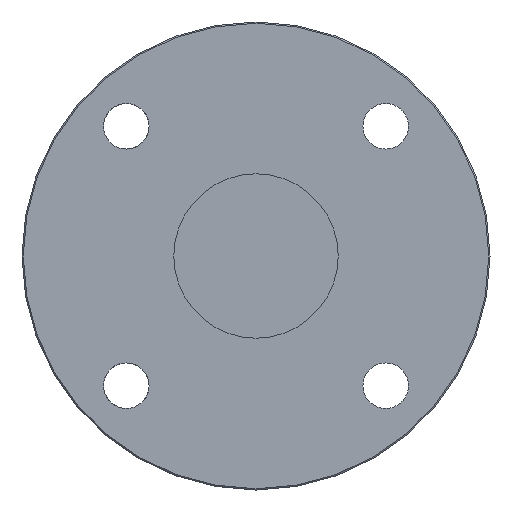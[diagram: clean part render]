
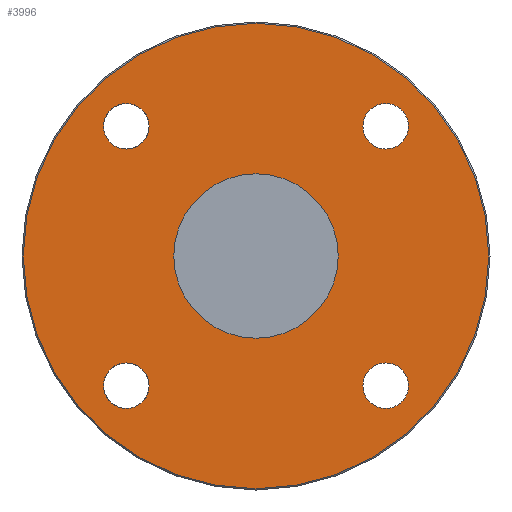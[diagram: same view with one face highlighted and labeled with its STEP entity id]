
A CAD part, left-side view. The second image highlights one B-rep face of the part: STEP entity #3996.
In plain terms, the highlighted planar face has unit normal (-1, 0, 0).
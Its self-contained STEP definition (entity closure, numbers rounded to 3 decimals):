
#69=FACE_BOUND('',#814,.T.);
#70=FACE_BOUND('',#815,.T.);
#71=FACE_BOUND('',#816,.T.);
#72=FACE_BOUND('',#817,.T.);
#73=FACE_BOUND('',#818,.T.);
#179=PLANE('',#4272);
#567=FACE_OUTER_BOUND('',#813,.T.);
#813=EDGE_LOOP('',(#3675));
#814=EDGE_LOOP('',(#3676));
#815=EDGE_LOOP('',(#3677,#3678));
#816=EDGE_LOOP('',(#3679,#3680));
#817=EDGE_LOOP('',(#3681,#3682));
#818=EDGE_LOOP('',(#3683,#3684));
#1628=CIRCLE('',#4271,92.);
#1629=CIRCLE('',#4273,32.5);
#1630=CIRCLE('',#4274,9.);
#1631=CIRCLE('',#4275,9.);
#1632=CIRCLE('',#4276,9.);
#1633=CIRCLE('',#4277,9.);
#1634=CIRCLE('',#4278,9.);
#1635=CIRCLE('',#4279,9.);
#1636=CIRCLE('',#4280,9.);
#1637=CIRCLE('',#4281,9.);
#2008=VERTEX_POINT('',#7342);
#2009=VERTEX_POINT('',#7346);
#2010=VERTEX_POINT('',#7348);
#2011=VERTEX_POINT('',#7349);
#2012=VERTEX_POINT('',#7352);
#2013=VERTEX_POINT('',#7353);
#2014=VERTEX_POINT('',#7356);
#2015=VERTEX_POINT('',#7357);
#2016=VERTEX_POINT('',#7360);
#2017=VERTEX_POINT('',#7361);
#2572=EDGE_CURVE('',#2008,#2008,#1628,.T.);
#2573=EDGE_CURVE('',#2009,#2009,#1629,.T.);
#2574=EDGE_CURVE('',#2010,#2011,#1630,.T.);
#2575=EDGE_CURVE('',#2011,#2010,#1631,.T.);
#2576=EDGE_CURVE('',#2012,#2013,#1632,.T.);
#2577=EDGE_CURVE('',#2013,#2012,#1633,.T.);
#2578=EDGE_CURVE('',#2014,#2015,#1634,.T.);
#2579=EDGE_CURVE('',#2015,#2014,#1635,.T.);
#2580=EDGE_CURVE('',#2016,#2017,#1636,.T.);
#2581=EDGE_CURVE('',#2017,#2016,#1637,.T.);
#3675=ORIENTED_EDGE('',*,*,#2572,.F.);
#3676=ORIENTED_EDGE('',*,*,#2573,.T.);
#3677=ORIENTED_EDGE('',*,*,#2574,.T.);
#3678=ORIENTED_EDGE('',*,*,#2575,.T.);
#3679=ORIENTED_EDGE('',*,*,#2576,.T.);
#3680=ORIENTED_EDGE('',*,*,#2577,.T.);
#3681=ORIENTED_EDGE('',*,*,#2578,.T.);
#3682=ORIENTED_EDGE('',*,*,#2579,.T.);
#3683=ORIENTED_EDGE('',*,*,#2580,.T.);
#3684=ORIENTED_EDGE('',*,*,#2581,.T.);
#3996=ADVANCED_FACE('',(#567,#69,#70,#71,#72,#73),#179,.T.);
#4271=AXIS2_PLACEMENT_3D('',#7344,#5126,#5127);
#4272=AXIS2_PLACEMENT_3D('',#7345,#5128,#5129);
#4273=AXIS2_PLACEMENT_3D('',#7347,#5130,#5131);
#4274=AXIS2_PLACEMENT_3D('',#7350,#5132,#5133);
#4275=AXIS2_PLACEMENT_3D('',#7351,#5134,#5135);
#4276=AXIS2_PLACEMENT_3D('',#7354,#5136,#5137);
#4277=AXIS2_PLACEMENT_3D('',#7355,#5138,#5139);
#4278=AXIS2_PLACEMENT_3D('',#7358,#5140,#5141);
#4279=AXIS2_PLACEMENT_3D('',#7359,#5142,#5143);
#4280=AXIS2_PLACEMENT_3D('',#7362,#5144,#5145);
#4281=AXIS2_PLACEMENT_3D('',#7363,#5146,#5147);
#5126=DIRECTION('center_axis',(1.,0.,0.));
#5127=DIRECTION('ref_axis',(0.,-1.,0.));
#5128=DIRECTION('center_axis',(-1.,0.,0.));
#5129=DIRECTION('ref_axis',(0.,0.,1.));
#5130=DIRECTION('center_axis',(1.,0.,0.));
#5131=DIRECTION('ref_axis',(0.,0.,-1.));
#5132=DIRECTION('center_axis',(1.,0.,0.));
#5133=DIRECTION('ref_axis',(0.,0.,1.));
#5134=DIRECTION('center_axis',(1.,0.,0.));
#5135=DIRECTION('ref_axis',(0.,0.,1.));
#5136=DIRECTION('center_axis',(1.,0.,0.));
#5137=DIRECTION('ref_axis',(0.,0.,1.));
#5138=DIRECTION('center_axis',(1.,0.,0.));
#5139=DIRECTION('ref_axis',(0.,0.,1.));
#5140=DIRECTION('center_axis',(1.,0.,0.));
#5141=DIRECTION('ref_axis',(0.,0.,1.));
#5142=DIRECTION('center_axis',(1.,0.,0.));
#5143=DIRECTION('ref_axis',(0.,0.,1.));
#5144=DIRECTION('center_axis',(1.,0.,0.));
#5145=DIRECTION('ref_axis',(0.,0.,1.));
#5146=DIRECTION('center_axis',(1.,0.,0.));
#5147=DIRECTION('ref_axis',(0.,0.,1.));
#7342=CARTESIAN_POINT('',(-52.5,92.,0.));
#7344=CARTESIAN_POINT('Origin',(-52.5,0.,0.));
#7345=CARTESIAN_POINT('Origin',(-52.5,46.25,0.));
#7346=CARTESIAN_POINT('',(-52.5,0.,32.5));
#7347=CARTESIAN_POINT('Origin',(-52.5,0.,0.));
#7348=CARTESIAN_POINT('',(-52.5,51.265,-42.265));
#7349=CARTESIAN_POINT('',(-52.5,51.265,-60.265));
#7350=CARTESIAN_POINT('Origin',(-52.5,51.265,-51.265));
#7351=CARTESIAN_POINT('Origin',(-52.5,51.265,-51.265));
#7352=CARTESIAN_POINT('',(-52.5,-51.265,-42.265));
#7353=CARTESIAN_POINT('',(-52.5,-51.265,-60.265));
#7354=CARTESIAN_POINT('Origin',(-52.5,-51.265,-51.265));
#7355=CARTESIAN_POINT('Origin',(-52.5,-51.265,-51.265));
#7356=CARTESIAN_POINT('',(-52.5,-51.265,60.265));
#7357=CARTESIAN_POINT('',(-52.5,-51.265,42.265));
#7358=CARTESIAN_POINT('Origin',(-52.5,-51.265,51.265));
#7359=CARTESIAN_POINT('Origin',(-52.5,-51.265,51.265));
#7360=CARTESIAN_POINT('',(-52.5,51.265,60.265));
#7361=CARTESIAN_POINT('',(-52.5,51.265,42.265));
#7362=CARTESIAN_POINT('Origin',(-52.5,51.265,51.265));
#7363=CARTESIAN_POINT('Origin',(-52.5,51.265,51.265));
